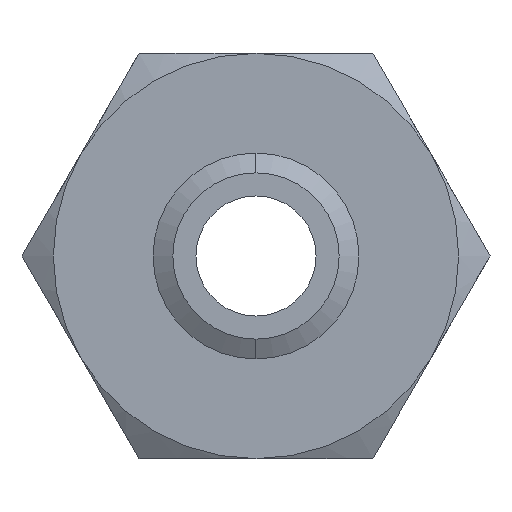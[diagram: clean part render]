
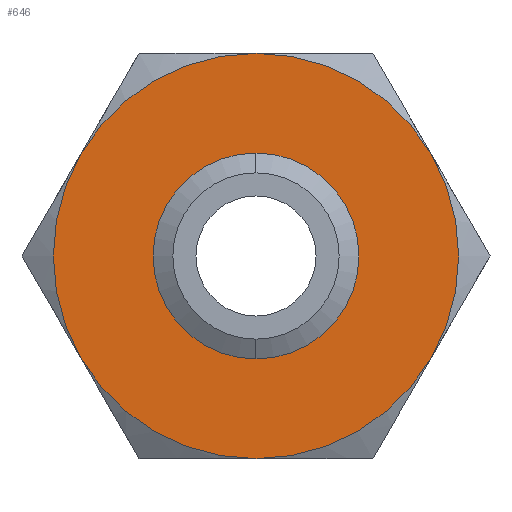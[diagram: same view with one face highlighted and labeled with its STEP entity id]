
A CAD part, front view. The second image highlights one B-rep face of the part: STEP entity #646.
In plain terms, the highlighted planar face has unit normal (0, -1, 0).
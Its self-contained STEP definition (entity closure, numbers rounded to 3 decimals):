
#7 = EDGE_CURVE ( 'NONE', #2237, #2224, #726, .T. ) ;
#19 = ORIENTED_EDGE ( 'NONE', *, *, #2236, .F. ) ;
#22 = ORIENTED_EDGE ( 'NONE', *, *, #7, .F. ) ;
#88 = EDGE_LOOP ( 'NONE', ( #2227, #1882 ) ) ;
#96 = VERTEX_POINT ( 'NONE', #896 ) ;
#97 = EDGE_CURVE ( 'NONE', #480, #96, #892, .T. ) ;
#98 = VERTEX_POINT ( 'NONE', #887 ) ;
#100 = ORIENTED_EDGE ( 'NONE', *, *, #97, .F. ) ;
#101 = ORIENTED_EDGE ( 'NONE', *, *, #102, .F. ) ;
#102 = EDGE_CURVE ( 'NONE', #98, #2237, #945, .T. ) ;
#157 = VERTEX_POINT ( 'NONE', #1017 ) ;
#176 = EDGE_CURVE ( 'NONE', #157, #210, #1059, .T. ) ;
#210 = VERTEX_POINT ( 'NONE', #1083 ) ;
#480 = VERTEX_POINT ( 'NONE', #1574 ) ;
#592 = ORIENTED_EDGE ( 'NONE', *, *, #640, .F. ) ;
#594 = EDGE_LOOP ( 'NONE', ( #592, #100, #19, #2223, #22, #101 ) ) ;
#640 = EDGE_CURVE ( 'NONE', #96, #98, #1870, .T. ) ;
#646 = ADVANCED_FACE ( 'NONE', ( #1918, #1917 ), #1916, .F. ) ;
#722 = DIRECTION ( 'NONE',  ( 0., 0., 1. ) ) ;
#723 = DIRECTION ( 'NONE',  ( 0., 1., 0. ) ) ;
#724 = CARTESIAN_POINT ( 'NONE',  ( 0., 0., 0. ) ) ;
#725 = AXIS2_PLACEMENT_3D ( 'NONE', #724, #723, #722 ) ;
#726 = CIRCLE ( 'NONE', #725, 37.5 ) ;
#882 = CARTESIAN_POINT ( 'NONE',  ( 0., 0., 0. ) ) ;
#887 = CARTESIAN_POINT ( 'NONE',  ( 32.476, 0., 18.75 ) ) ;
#888 = DIRECTION ( 'NONE',  ( 0., 0., 1. ) ) ;
#889 = DIRECTION ( 'NONE',  ( 0., 1., 0. ) ) ;
#890 = CARTESIAN_POINT ( 'NONE',  ( 0., 0., 0. ) ) ;
#891 = AXIS2_PLACEMENT_3D ( 'NONE', #890, #889, #888 ) ;
#892 = CIRCLE ( 'NONE', #891, 37.5 ) ;
#896 = CARTESIAN_POINT ( 'NONE',  ( 0., 0., 37.5 ) ) ;
#942 = DIRECTION ( 'NONE',  ( 0., 0., 1. ) ) ;
#943 = DIRECTION ( 'NONE',  ( 0., 1., 0. ) ) ;
#944 = AXIS2_PLACEMENT_3D ( 'NONE', #882, #943, #942 ) ;
#945 = CIRCLE ( 'NONE', #944, 37.5 ) ;
#1017 = CARTESIAN_POINT ( 'NONE',  ( 0., 0., -15.387 ) ) ;
#1055 = DIRECTION ( 'NONE',  ( 0., 0., -1. ) ) ;
#1056 = DIRECTION ( 'NONE',  ( 0., -1., 0. ) ) ;
#1057 = CARTESIAN_POINT ( 'NONE',  ( 0., 0., 0. ) ) ;
#1058 = AXIS2_PLACEMENT_3D ( 'NONE', #1057, #1056, #1055 ) ;
#1059 = CIRCLE ( 'NONE', #1058, 15.387 ) ;
#1083 = CARTESIAN_POINT ( 'NONE',  ( 0., 0., 15.387 ) ) ;
#1574 = CARTESIAN_POINT ( 'NONE',  ( -32.476, 0., 18.75 ) ) ;
#1865 = DIRECTION ( 'NONE',  ( 0., 0., 1. ) ) ;
#1867 = DIRECTION ( 'NONE',  ( 0., 1., 0. ) ) ;
#1868 = CARTESIAN_POINT ( 'NONE',  ( 0., 0., 0. ) ) ;
#1869 = AXIS2_PLACEMENT_3D ( 'NONE', #1868, #1867, #1865 ) ;
#1870 = CIRCLE ( 'NONE', #1869, 37.5 ) ;
#1882 = ORIENTED_EDGE ( 'NONE', *, *, #1914, .F. ) ;
#1910 = DIRECTION ( 'NONE',  ( 0., 0., 1. ) ) ;
#1911 = DIRECTION ( 'NONE',  ( 0., 1., 0. ) ) ;
#1912 = CARTESIAN_POINT ( 'NONE',  ( 21.651, 0., -37.5 ) ) ;
#1914 = EDGE_CURVE ( 'NONE', #210, #157, #2105, .T. ) ;
#1915 = AXIS2_PLACEMENT_3D ( 'NONE', #1912, #1911, #1910 ) ;
#1916 = PLANE ( 'NONE',  #1915 ) ;
#1917 = FACE_BOUND ( 'NONE', #88, .T. ) ;
#1918 = FACE_OUTER_BOUND ( 'NONE', #594, .T. ) ;
#2038 = CARTESIAN_POINT ( 'NONE',  ( 0., 0., 0. ) ) ;
#2083 = CARTESIAN_POINT ( 'NONE',  ( 0., 0., -37.5 ) ) ;
#2102 = DIRECTION ( 'NONE',  ( 0., 0., -1. ) ) ;
#2103 = DIRECTION ( 'NONE',  ( 0., -1., 0. ) ) ;
#2104 = AXIS2_PLACEMENT_3D ( 'NONE', #2038, #2103, #2102 ) ;
#2105 = CIRCLE ( 'NONE', #2104, 15.387 ) ;
#2115 = CARTESIAN_POINT ( 'NONE',  ( -32.476, 0., -18.75 ) ) ;
#2116 = DIRECTION ( 'NONE',  ( 0., 0., 1. ) ) ;
#2117 = DIRECTION ( 'NONE',  ( 0., 1., 0. ) ) ;
#2118 = CARTESIAN_POINT ( 'NONE',  ( 0., 0., 0. ) ) ;
#2119 = AXIS2_PLACEMENT_3D ( 'NONE', #2118, #2117, #2116 ) ;
#2120 = CIRCLE ( 'NONE', #2119, 37.5 ) ;
#2121 = CARTESIAN_POINT ( 'NONE',  ( 32.476, 0., -18.75 ) ) ;
#2127 = DIRECTION ( 'NONE',  ( 0., 0., 1. ) ) ;
#2128 = DIRECTION ( 'NONE',  ( 0., 1., 0. ) ) ;
#2129 = CARTESIAN_POINT ( 'NONE',  ( 0., 0., 0. ) ) ;
#2130 = AXIS2_PLACEMENT_3D ( 'NONE', #2129, #2128, #2127 ) ;
#2131 = CIRCLE ( 'NONE', #2130, 37.5 ) ;
#2223 = ORIENTED_EDGE ( 'NONE', *, *, #2233, .F. ) ;
#2224 = VERTEX_POINT ( 'NONE', #2083 ) ;
#2227 = ORIENTED_EDGE ( 'NONE', *, *, #176, .F. ) ;
#2233 = EDGE_CURVE ( 'NONE', #2224, #2238, #2131, .T. ) ;
#2236 = EDGE_CURVE ( 'NONE', #2238, #480, #2120, .T. ) ;
#2237 = VERTEX_POINT ( 'NONE', #2121 ) ;
#2238 = VERTEX_POINT ( 'NONE', #2115 ) ;
